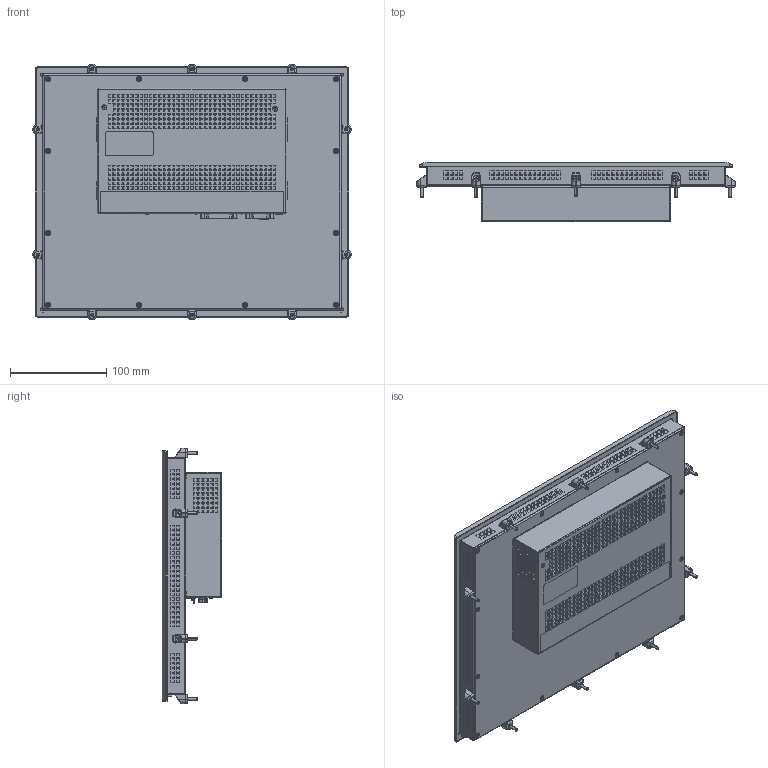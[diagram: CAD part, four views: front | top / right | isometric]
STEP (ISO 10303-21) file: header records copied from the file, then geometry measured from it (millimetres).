
FILE_DESCRIPTION (( 'STEP AP214' ), '1' );
FILE_NAME ('C6S14_121_RES_UPS_DB15.STEP', '2019-07-29T11:38:45', ( '' ), ( '' ), 'SwSTEP 2.0', 'SolidWorks 2018', '' );
FILE_SCHEMA (( 'AUTOMOTIVE_DESIGN' ));
Length unit declared in the file: millimetre
Products named in the file (5): C6S14_121_RES; DB15_Male_pin; C6S14_121_RES_UPS_DB15; C6S14_121_RES_ASM; C6S14_121_RES_UPS_1
Assembly tree (4 placements, depth 3):
  C6S14_121_RES_UPS_DB15
    C6S14_121_RES_ASM
    C6S14_121_RES
      C6S14_121_RES_UPS_1
      DB15_Male_pin
Bounding box: 330 x 61.79 x 265 mm (x, y, z)
Surface area: 498411.6 mm2
Topology: 1 solids, 5309 shells, 5558 faces, 30269 edges, 30025 vertices
Faces by surface type: plane 4413, cylinder 768, cone 178, bspline 137, torus 42, sphere 20
Entity records: 346418 total; most frequent: CARTESIAN_POINT 127291, DIRECTION 36524, ORIENTED_EDGE 30822, EDGE_CURVE 30233, VERTEX_POINT 30008, LINE 22096, VECTOR 22096, AXIS2_PLACEMENT_3D 7214
